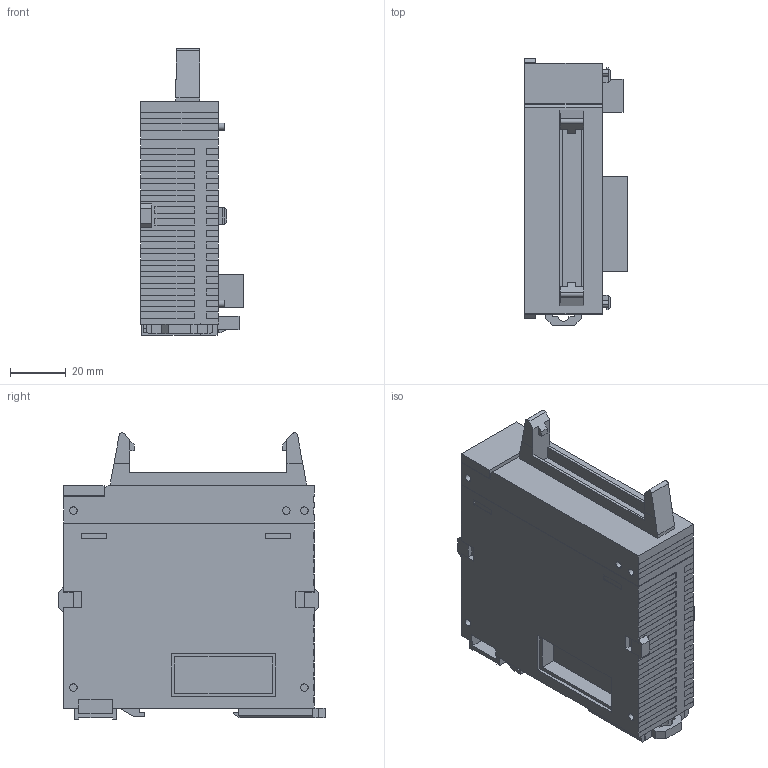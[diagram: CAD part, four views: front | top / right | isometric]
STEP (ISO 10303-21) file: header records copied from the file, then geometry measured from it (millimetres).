
FILE_DESCRIPTION (( 'STEP AP203' ), '1' );
FILE_NAME ('afp7x32d2.STEP', '2013-03-14T04:38:26', ( 'sunx' ), ( 'sunx' ), 'SwSTEP 2.0', 'SolidWorks 2010', '' );
FILE_SCHEMA (( 'CONFIG_CONTROL_DESIGN' ));
Length unit declared in the file: millimetre
Products named in the file (1): afp7x32d2
Bounding box: 37 x 95.75 x 103 mm (x, y, z)
Volume: 204624.1 mm3; surface area: 31925.9 mm2
Topology: 1 solids, 1 shells, 592 faces, 1668 edges, 1106 vertices
Faces by surface type: plane 566, cylinder 26
Entity records: 18825 total; most frequent: CARTESIAN_POINT 3367, ORIENTED_EDGE 3336, DIRECTION 2906, EDGE_CURVE 1668, VECTOR 1616, LINE 1616, VERTEX_POINT 1106, AXIS2_PLACEMENT_3D 645
